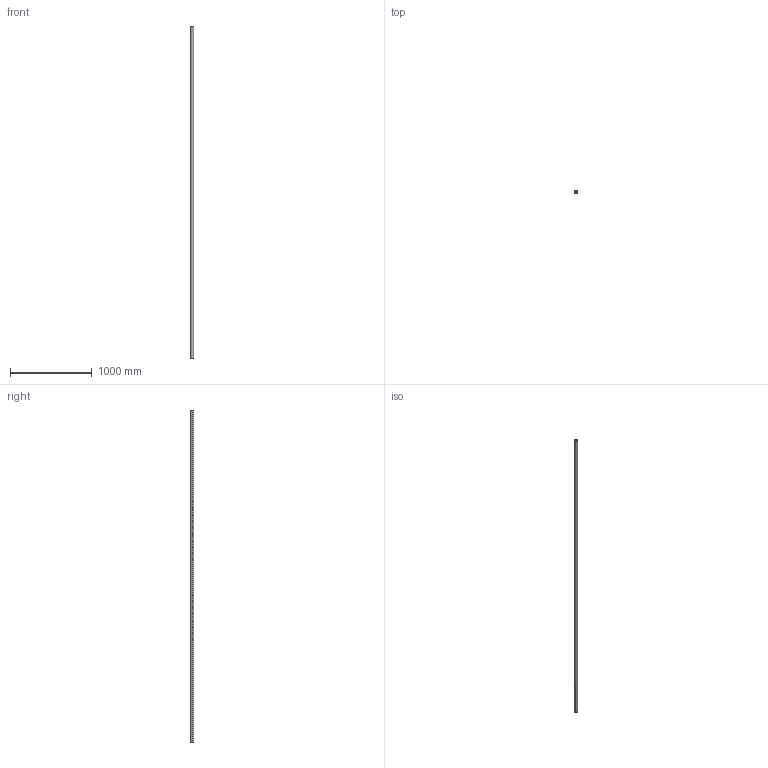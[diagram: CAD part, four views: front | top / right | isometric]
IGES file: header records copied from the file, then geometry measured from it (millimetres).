
Start section: SolidWorks IGES file using analytic representation for surfaces
Global section: file name: C:\Users\IanO\Desktop\L1771_v2\L1771.40_v2\L1771.40_v2_20230705_IGES\L1771.40-4050.igs; native system: SolidWorks 2019; preprocessor: SolidWorks 2019; author: IanO; date: 230705.162254; units: millimetre
Bounding box: 40 x 40 x 4050 mm (x, y, z)
Surface area: 866476.4 mm2 (no closed solid volume)
Topology: 0 solids, 0 shells, 6 faces, 272 edges, 272 vertices
Faces by surface type: revolution 4, bspline 2
